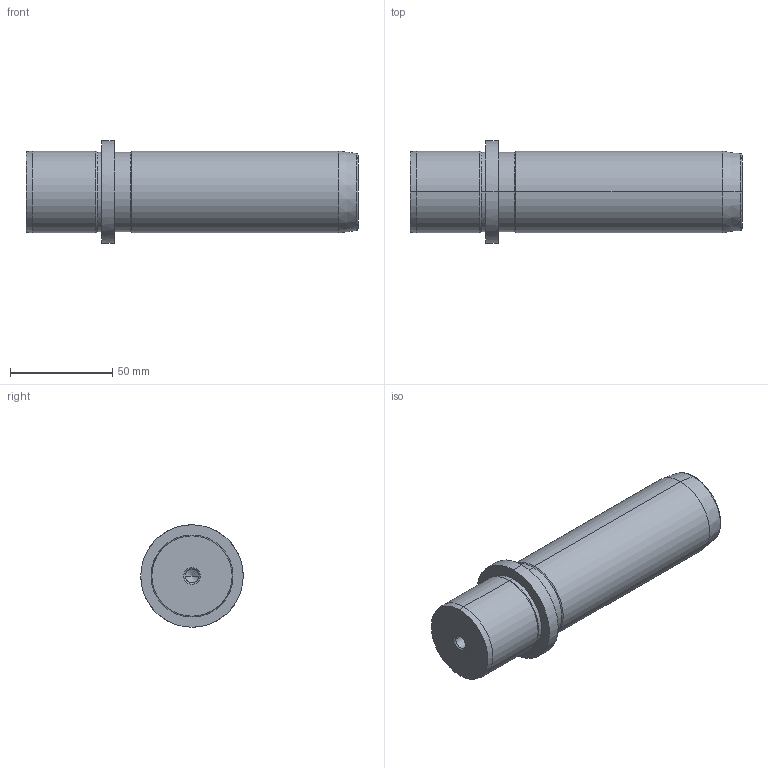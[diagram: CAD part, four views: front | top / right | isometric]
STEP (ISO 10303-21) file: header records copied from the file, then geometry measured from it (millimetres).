
FILE_DESCRIPTION(('CATIA V5 STEP Exchange'),'2;1');
FILE_NAME('C:\Users\Utente\Desktop\IO LAVORO\3D X SITO CF\X SITO\718\718-40x125.stp','2021-01-02T12:49:22+00:00',('none'),('none'),'CATIA Version 5 Release 20 GA (IN-10)','CATIA V5 STEP AP203','none');
FILE_SCHEMA(('CONFIG_CONTROL_DESIGN'));
Length unit declared in the file: millimetre
Products named in the file (1): 718-40x125
Bounding box: 162 x 50 x 50 mm (x, y, z)
Volume: 204557.1 mm3; surface area: 25323.8 mm2
Topology: 1 solids, 1 shells, 36 faces, 100 edges, 66 vertices
Faces by surface type: cone 16, cylinder 14, plane 4, torus 2
Entity records: 1291 total; most frequent: CARTESIAN_POINT 362, ORIENTED_EDGE 192, DIRECTION 157, EDGE_CURVE 96, AXIS2_PLACEMENT_3D 92, VERTEX_POINT 66, CIRCLE 55, EDGE_LOOP 40
